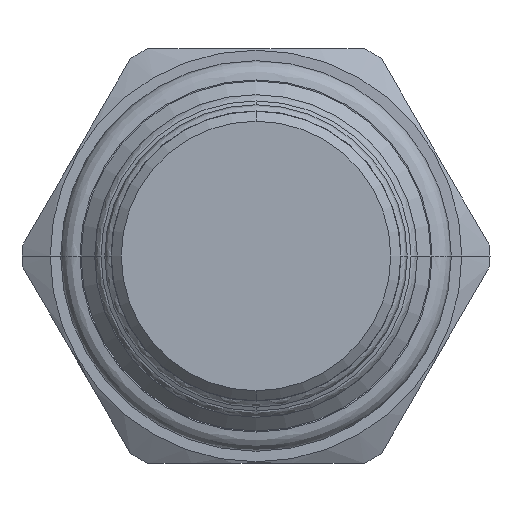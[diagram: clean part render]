
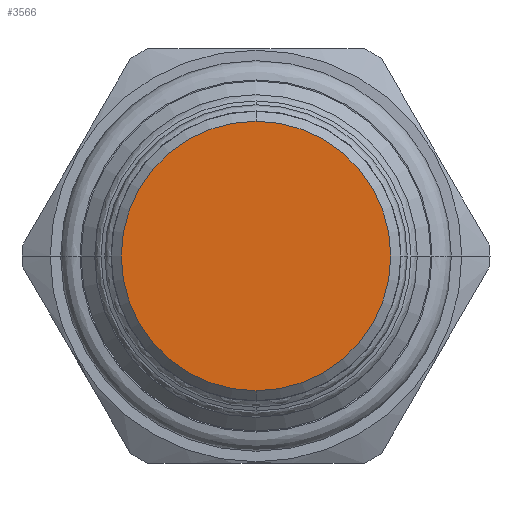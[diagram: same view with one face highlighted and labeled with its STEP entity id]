
A CAD part, front view. The second image highlights one B-rep face of the part: STEP entity #3566.
In plain terms, the highlighted planar face has unit normal (0, -1, 0).
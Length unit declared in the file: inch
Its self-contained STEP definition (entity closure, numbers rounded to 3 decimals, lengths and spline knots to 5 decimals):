
#1004=CARTESIAN_POINT('',(0.,-2.7795,0.));
#1005=DIRECTION('',(0.,1.,0.));
#1006=DIRECTION('',(0.,0.,-1.));
#1007=AXIS2_PLACEMENT_3D('',#1004,#1005,#1006);
#1014=CARTESIAN_POINT('',(0.,-2.7795,0.));
#1015=DIRECTION('',(0.,1.,0.));
#1016=DIRECTION('',(0.,0.,1.));
#1017=AXIS2_PLACEMENT_3D('',#1014,#1015,#1016);
#1834=CARTESIAN_POINT('',(0.,-2.7795,-0.406));
#1835=CARTESIAN_POINT('',(0.,-2.7795,0.406));
#1836=VERTEX_POINT('',#1834);
#1837=VERTEX_POINT('',#1835);
#3556=CARTESIAN_POINT('',(0.,-2.7795,0.));
#3557=DIRECTION('',(0.,-1.,0.));
#3558=DIRECTION('',(0.,0.,-1.));
#3559=AXIS2_PLACEMENT_3D('',#3556,#3557,#3558);
#3560=PLANE('',#3559);
#3562=ORIENTED_EDGE('',*,*,#3561,.T.);
#3563=ORIENTED_EDGE('',*,*,#3546,.T.);
#3564=EDGE_LOOP('',(#3562,#3563));
#3565=FACE_OUTER_BOUND('',#3564,.F.);
#3566=ADVANCED_FACE('',(#3565),#3560,.T.);
#1008=CIRCLE('',#1007,0.406);
#1018=CIRCLE('',#1017,0.406);
#3546=EDGE_CURVE('',#1836,#1837,#1008,.T.);
#3561=EDGE_CURVE('',#1837,#1836,#1018,.T.);
